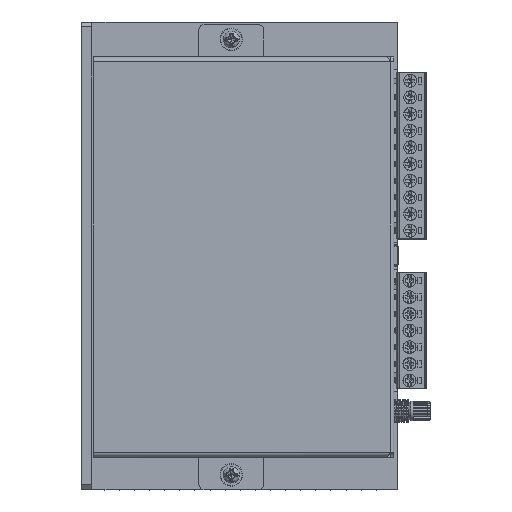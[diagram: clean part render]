
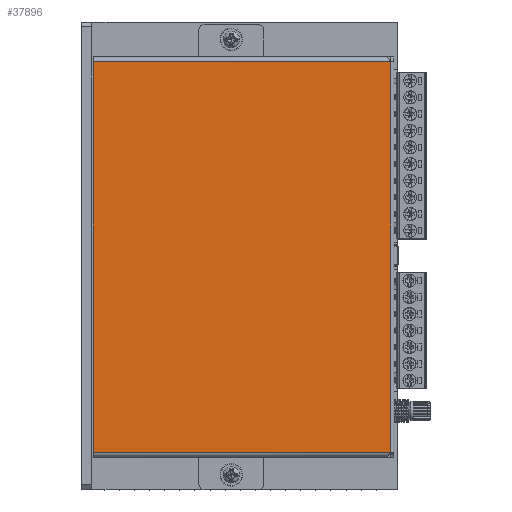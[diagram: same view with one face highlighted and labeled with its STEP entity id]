
A CAD part, top view. The second image highlights one B-rep face of the part: STEP entity #37896.
In plain terms, the highlighted planar face has unit normal (0, 0, 1) as drawn and (0, 1, 0) by its records, which use the part's own axes.
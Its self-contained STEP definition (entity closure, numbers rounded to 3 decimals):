
#264 = PLANE ( 'NONE',  #18902 ) ;
#2271 = DIRECTION ( 'NONE',  ( -1., 0., 0. ) ) ;
#3566 = DIRECTION ( 'NONE',  ( 0., 0., 1. ) ) ;
#4959 = DIRECTION ( 'NONE',  ( 0., 0., -1. ) ) ;
#5066 = LINE ( 'NONE', #5684, #52866 ) ;
#5399 = VECTOR ( 'NONE', #2271, 1000. ) ;
#5684 = CARTESIAN_POINT ( 'NONE',  ( 91., 26., -1.5 ) ) ;
#7351 = VERTEX_POINT ( 'NONE', #24704 ) ;
#8203 = ORIENTED_EDGE ( 'NONE', *, *, #46857, .F. ) ;
#10520 = VERTEX_POINT ( 'NONE', #24709 ) ;
#10947 = ORIENTED_EDGE ( 'NONE', *, *, #54711, .F. ) ;
#14044 = CARTESIAN_POINT ( 'NONE',  ( 91., 26., -1.5 ) ) ;
#14331 = VECTOR ( 'NONE', #3566, 1000. ) ;
#14955 = DIRECTION ( 'NONE',  ( 0., 0., 1. ) ) ;
#15565 = EDGE_LOOP ( 'NONE', ( #45113, #8203, #10947, #23271 ) ) ;
#18902 = AXIS2_PLACEMENT_3D ( 'NONE', #14044, #32722, #4959 ) ;
#19179 = VERTEX_POINT ( 'NONE', #38578 ) ;
#23271 = ORIENTED_EDGE ( 'NONE', *, *, #38536, .T. ) ;
#24704 = CARTESIAN_POINT ( 'NONE',  ( 91., 26., -1.5 ) ) ;
#24709 = CARTESIAN_POINT ( 'NONE',  ( 91., 26., -121. ) ) ;
#28666 = LINE ( 'NONE', #51881, #51814 ) ;
#32722 = DIRECTION ( 'NONE',  ( 0., -1., 0. ) ) ;
#37896 = ADVANCED_FACE ( 'NONE', ( #55388 ), #264, .F. ) ;
#38536 = EDGE_CURVE ( 'NONE', #10520, #39948, #42361, .T. ) ;
#38578 = CARTESIAN_POINT ( 'NONE',  ( 0., 26., -1.5 ) ) ;
#39948 = VERTEX_POINT ( 'NONE', #59623 ) ;
#40654 = CARTESIAN_POINT ( 'NONE',  ( 0., 26., -1.5 ) ) ;
#42361 = LINE ( 'NONE', #57778, #5399 ) ;
#45113 = ORIENTED_EDGE ( 'NONE', *, *, #55642, .T. ) ;
#46857 = EDGE_CURVE ( 'NONE', #7351, #19179, #28666, .T. ) ;
#51301 = LINE ( 'NONE', #40654, #14331 ) ;
#51814 = VECTOR ( 'NONE', #56557, 1000. ) ;
#51881 = CARTESIAN_POINT ( 'NONE',  ( 91., 26., -1.5 ) ) ;
#52866 = VECTOR ( 'NONE', #14955, 1000. ) ;
#54711 = EDGE_CURVE ( 'NONE', #10520, #7351, #5066, .T. ) ;
#55388 = FACE_OUTER_BOUND ( 'NONE', #15565, .T. ) ;
#55642 = EDGE_CURVE ( 'NONE', #39948, #19179, #51301, .T. ) ;
#56557 = DIRECTION ( 'NONE',  ( -1., 0., 0. ) ) ;
#57778 = CARTESIAN_POINT ( 'NONE',  ( 91., 26., -121. ) ) ;
#59623 = CARTESIAN_POINT ( 'NONE',  ( 0., 26., -121. ) ) ;
